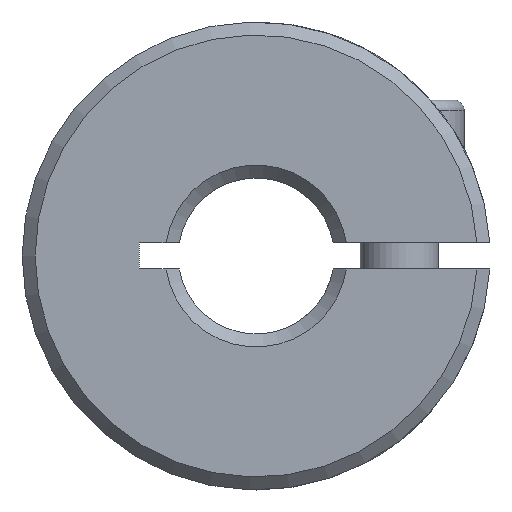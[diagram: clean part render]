
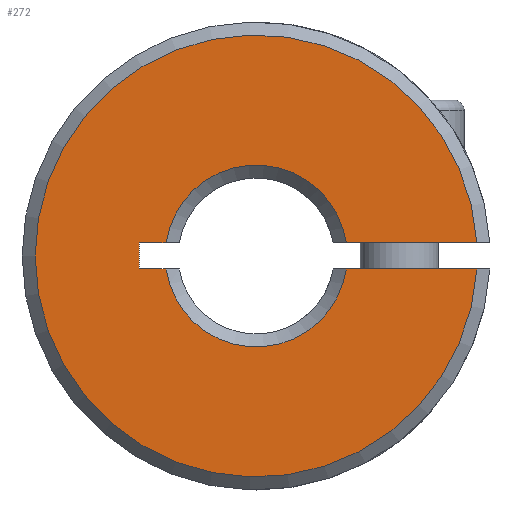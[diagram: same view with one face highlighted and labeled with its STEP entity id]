
A CAD part, front view. The second image highlights one B-rep face of the part: STEP entity #272.
In plain terms, the highlighted planar face has unit normal (0, -1, 0).
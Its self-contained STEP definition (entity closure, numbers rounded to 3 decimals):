
#272 = ADVANCED_FACE( '', ( #538 ), #539, .F. );
#538 = FACE_OUTER_BOUND( '', #786, .T. );
#539 = PLANE( '', #787 );
#786 = EDGE_LOOP( '', ( #1273, #1274, #1275, #1276, #1277, #1278, #1279, #1280 ) );
#787 = AXIS2_PLACEMENT_3D( '', #1281, #1282, #1283 );
#1273 = ORIENTED_EDGE( '', *, *, #1418, .T. );
#1274 = ORIENTED_EDGE( '', *, *, #1486, .T. );
#1275 = ORIENTED_EDGE( '', *, *, #1518, .F. );
#1276 = ORIENTED_EDGE( '', *, *, #1505, .T. );
#1277 = ORIENTED_EDGE( '', *, *, #1351, .F. );
#1278 = ORIENTED_EDGE( '', *, *, #1356, .F. );
#1279 = ORIENTED_EDGE( '', *, *, #1452, .T. );
#1280 = ORIENTED_EDGE( '', *, *, #1519, .T. );
#1281 = CARTESIAN_POINT( '', ( 0., -30., 0. ) );
#1282 = DIRECTION( '', ( 0., 1., 0. ) );
#1283 = DIRECTION( '', ( 0., 0., 1. ) );
#1351 = EDGE_CURVE( '', #1556, #1558, #1559, .T. );
#1356 = EDGE_CURVE( '', #1565, #1556, #1566, .T. );
#1418 = EDGE_CURVE( '', #1669, #1667, #1670, .T. );
#1452 = EDGE_CURVE( '', #1565, #1716, #1718, .T. );
#1486 = EDGE_CURVE( '', #1667, #1758, #1761, .F. );
#1505 = EDGE_CURVE( '', #1785, #1558, #1787, .T. );
#1518 = EDGE_CURVE( '', #1785, #1758, #1801, .T. );
#1519 = EDGE_CURVE( '', #1716, #1669, #1802, .T. );
#1556 = VERTEX_POINT( '', #1852 );
#1558 = VERTEX_POINT( '', #1855 );
#1559 = LINE( '', #1856, #1857 );
#1565 = VERTEX_POINT( '', #1866 );
#1566 = LINE( '', #1867, #1868 );
#1667 = VERTEX_POINT( '', #2053 );
#1669 = VERTEX_POINT( '', #2058 );
#1670 = LINE( '', #2059, #2060 );
#1716 = VERTEX_POINT( '', #2158 );
#1718 = LINE( '', #2163, #2164 );
#1758 = VERTEX_POINT( '', #2280 );
#1761 = CIRCLE( '', #2286, 8.5 );
#1785 = VERTEX_POINT( '', #2474 );
#1787 = CIRCLE( '', #2479, 3.5 );
#1801 = LINE( '', #2597, #2598 );
#1802 = CIRCLE( '', #2599, 3.5 );
#1852 = CARTESIAN_POINT( '', ( -4.5, -30., -0.5 ) );
#1855 = CARTESIAN_POINT( '', ( -3.464, -30., -0.5 ) );
#1856 = CARTESIAN_POINT( '', ( 0., -30., -0.5 ) );
#1857 = VECTOR( '', #2632, 1000. );
#1866 = CARTESIAN_POINT( '', ( -4.5, -30., 0.5 ) );
#1867 = CARTESIAN_POINT( '', ( -4.5, -30., 0. ) );
#1868 = VECTOR( '', #2636, 1000. );
#2053 = CARTESIAN_POINT( '', ( 8.485, -30., 0.5 ) );
#2058 = CARTESIAN_POINT( '', ( 3.464, -30., 0.5 ) );
#2059 = CARTESIAN_POINT( '', ( 0., -30., 0.5 ) );
#2060 = VECTOR( '', #2716, 1000. );
#2158 = CARTESIAN_POINT( '', ( -3.464, -30., 0.5 ) );
#2163 = CARTESIAN_POINT( '', ( 0., -30., 0.5 ) );
#2164 = VECTOR( '', #2763, 1000. );
#2280 = CARTESIAN_POINT( '', ( 8.485, -30., -0.5 ) );
#2286 = AXIS2_PLACEMENT_3D( '', #2786, #2787, #2788 );
#2474 = CARTESIAN_POINT( '', ( 3.464, -30., -0.5 ) );
#2479 = AXIS2_PLACEMENT_3D( '', #2803, #2804, #2805 );
#2597 = CARTESIAN_POINT( '', ( 0., -30., -0.5 ) );
#2598 = VECTOR( '', #2810, 1000. );
#2599 = AXIS2_PLACEMENT_3D( '', #2811, #2812, #2813 );
#2632 = DIRECTION( '', ( 1., 0., 0. ) );
#2636 = DIRECTION( '', ( 0., 0., -1. ) );
#2716 = DIRECTION( '', ( 1., 0., 0. ) );
#2763 = DIRECTION( '', ( 1., 0., 0. ) );
#2786 = CARTESIAN_POINT( '', ( 0., -30., 0. ) );
#2787 = DIRECTION( '', ( 0., 1., 0. ) );
#2788 = DIRECTION( '', ( 0., 0., 1. ) );
#2803 = CARTESIAN_POINT( '', ( 0., -30., 0. ) );
#2804 = DIRECTION( '', ( 0., 1., 0. ) );
#2805 = DIRECTION( '', ( 0., 0., 1. ) );
#2810 = DIRECTION( '', ( 1., 0., 0. ) );
#2811 = CARTESIAN_POINT( '', ( 0., -30., 0. ) );
#2812 = DIRECTION( '', ( 0., 1., 0. ) );
#2813 = DIRECTION( '', ( 0., 0., 1. ) );
